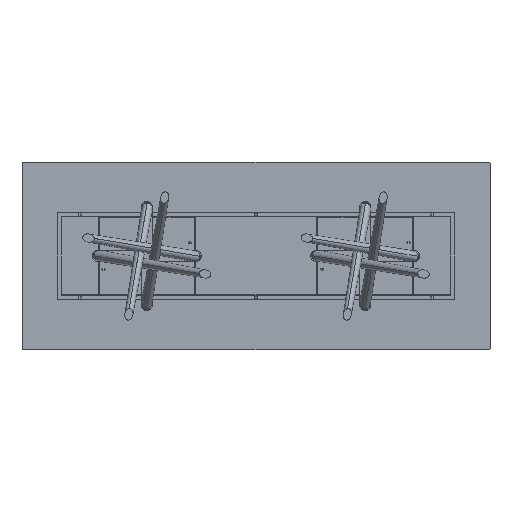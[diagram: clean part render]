
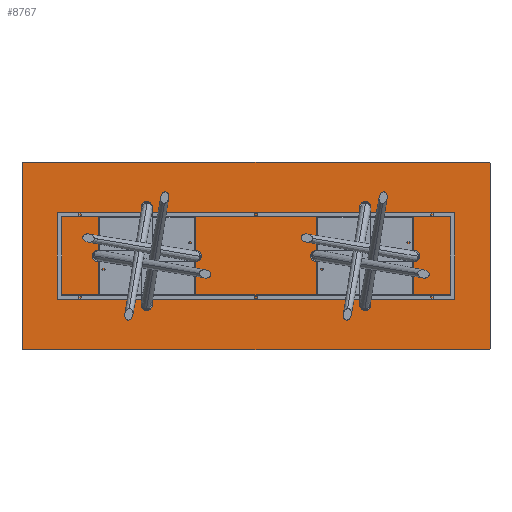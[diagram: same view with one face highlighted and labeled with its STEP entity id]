
A CAD part, front view. The second image highlights one B-rep face of the part: STEP entity #8767.
In plain terms, the highlighted planar face has unit normal (0, -1, 0).
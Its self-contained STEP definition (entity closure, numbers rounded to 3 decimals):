
#177 = VERTEX_POINT ( 'NONE', #13223 ) ;
#275 = CARTESIAN_POINT ( 'NONE',  ( 0., 0., 0. ) ) ;
#356 = LINE ( 'NONE', #5170, #2329 ) ;
#520 = CARTESIAN_POINT ( 'NONE',  ( -1495., 0., -595. ) ) ;
#1054 = AXIS2_PLACEMENT_3D ( 'NONE', #4990, #9838, #9925 ) ;
#1227 = VECTOR ( 'NONE', #5623, 1000. ) ;
#1343 = AXIS2_PLACEMENT_3D ( 'NONE', #6291, #9603, #6137 ) ;
#1514 = ORIENTED_EDGE ( 'NONE', *, *, #15021, .T. ) ;
#1726 = ORIENTED_EDGE ( 'NONE', *, *, #14608, .F. ) ;
#1947 = CARTESIAN_POINT ( 'NONE',  ( -1495., 0., -600. ) ) ;
#2047 = CIRCLE ( 'NONE', #1054, 5. ) ;
#2048 = VERTEX_POINT ( 'NONE', #3447 ) ;
#2329 = VECTOR ( 'NONE', #8712, 1000. ) ;
#2443 = PLANE ( 'NONE',  #3498 ) ;
#2754 = AXIS2_PLACEMENT_3D ( 'NONE', #520, #6564, #4156 ) ;
#2886 = DIRECTION ( 'NONE',  ( 0., 0., 1. ) ) ;
#3418 = ORIENTED_EDGE ( 'NONE', *, *, #12842, .T. ) ;
#3447 = CARTESIAN_POINT ( 'NONE',  ( -1500., 0., -595. ) ) ;
#3498 = AXIS2_PLACEMENT_3D ( 'NONE', #275, #5015, #12117 ) ;
#4156 = DIRECTION ( 'NONE',  ( 0., 0., 1. ) ) ;
#4215 = DIRECTION ( 'NONE',  ( 0., 0., -1. ) ) ;
#4629 = AXIS2_PLACEMENT_3D ( 'NONE', #7535, #7689, #2886 ) ;
#4990 = CARTESIAN_POINT ( 'NONE',  ( 1495., 0., -595. ) ) ;
#5015 = DIRECTION ( 'NONE',  ( 0., 1., 0. ) ) ;
#5170 = CARTESIAN_POINT ( 'NONE',  ( -1500., 0., -600. ) ) ;
#5623 = DIRECTION ( 'NONE',  ( -1., 0., 0. ) ) ;
#5956 = CARTESIAN_POINT ( 'NONE',  ( 1500., 0., -595. ) ) ;
#6063 = CIRCLE ( 'NONE', #1343, 5. ) ;
#6137 = DIRECTION ( 'NONE',  ( 0., 0., 1. ) ) ;
#6291 = CARTESIAN_POINT ( 'NONE',  ( 1495., 0., 595. ) ) ;
#6404 = EDGE_CURVE ( 'NONE', #13470, #10053, #6707, .T. ) ;
#6564 = DIRECTION ( 'NONE',  ( 0., -1., 0. ) ) ;
#6707 = LINE ( 'NONE', #6780, #1227 ) ;
#6780 = CARTESIAN_POINT ( 'NONE',  ( -1500., 0., -600. ) ) ;
#7421 = ORIENTED_EDGE ( 'NONE', *, *, #8429, .T. ) ;
#7438 = VECTOR ( 'NONE', #4215, 1000. ) ;
#7475 = ORIENTED_EDGE ( 'NONE', *, *, #6404, .F. ) ;
#7508 = CARTESIAN_POINT ( 'NONE',  ( 1495., 0., -600. ) ) ;
#7535 = CARTESIAN_POINT ( 'NONE',  ( -1495., 0., 595. ) ) ;
#7539 = CARTESIAN_POINT ( 'NONE',  ( -1500., 0., 600. ) ) ;
#7689 = DIRECTION ( 'NONE',  ( 0., -1., 0. ) ) ;
#7807 = EDGE_CURVE ( 'NONE', #177, #14016, #13736, .T. ) ;
#8429 = EDGE_CURVE ( 'NONE', #2048, #10053, #9411, .T. ) ;
#8461 = ORIENTED_EDGE ( 'NONE', *, *, #7807, .F. ) ;
#8472 = ORIENTED_EDGE ( 'NONE', *, *, #11260, .F. ) ;
#8712 = DIRECTION ( 'NONE',  ( 0., 0., 1. ) ) ;
#8767 = ADVANCED_FACE ( 'NONE', ( #10882 ), #2443, .F. ) ;
#8850 = CARTESIAN_POINT ( 'NONE',  ( 1500., 0., -600. ) ) ;
#9411 = CIRCLE ( 'NONE', #2754, 5. ) ;
#9603 = DIRECTION ( 'NONE',  ( 0., -1., 0. ) ) ;
#9838 = DIRECTION ( 'NONE',  ( 0., -1., 0. ) ) ;
#9925 = DIRECTION ( 'NONE',  ( 0., 0., 1. ) ) ;
#9952 = VERTEX_POINT ( 'NONE', #14585 ) ;
#9978 = CARTESIAN_POINT ( 'NONE',  ( 1495., 0., 600. ) ) ;
#10053 = VERTEX_POINT ( 'NONE', #1947 ) ;
#10058 = VERTEX_POINT ( 'NONE', #12633 ) ;
#10295 = CIRCLE ( 'NONE', #4629, 5. ) ;
#10450 = VERTEX_POINT ( 'NONE', #9978 ) ;
#10678 = EDGE_LOOP ( 'NONE', ( #8461, #15022, #8472, #1514, #1726, #7421, #7475, #3418 ) ) ;
#10882 = FACE_OUTER_BOUND ( 'NONE', #10678, .T. ) ;
#10945 = DIRECTION ( 'NONE',  ( 1., 0., 0. ) ) ;
#11260 = EDGE_CURVE ( 'NONE', #9952, #10450, #13351, .T. ) ;
#12117 = DIRECTION ( 'NONE',  ( 0., 0., 1. ) ) ;
#12633 = CARTESIAN_POINT ( 'NONE',  ( -1500., 0., 595. ) ) ;
#12687 = VECTOR ( 'NONE', #10945, 1000. ) ;
#12842 = EDGE_CURVE ( 'NONE', #13470, #14016, #2047, .T. ) ;
#13223 = CARTESIAN_POINT ( 'NONE',  ( 1500., 0., 595. ) ) ;
#13351 = LINE ( 'NONE', #7539, #12687 ) ;
#13470 = VERTEX_POINT ( 'NONE', #7508 ) ;
#13736 = LINE ( 'NONE', #8850, #7438 ) ;
#14016 = VERTEX_POINT ( 'NONE', #5956 ) ;
#14245 = EDGE_CURVE ( 'NONE', #177, #10450, #6063, .T. ) ;
#14585 = CARTESIAN_POINT ( 'NONE',  ( -1495., 0., 600. ) ) ;
#14608 = EDGE_CURVE ( 'NONE', #2048, #10058, #356, .T. ) ;
#15021 = EDGE_CURVE ( 'NONE', #9952, #10058, #10295, .T. ) ;
#15022 = ORIENTED_EDGE ( 'NONE', *, *, #14245, .T. ) ;
